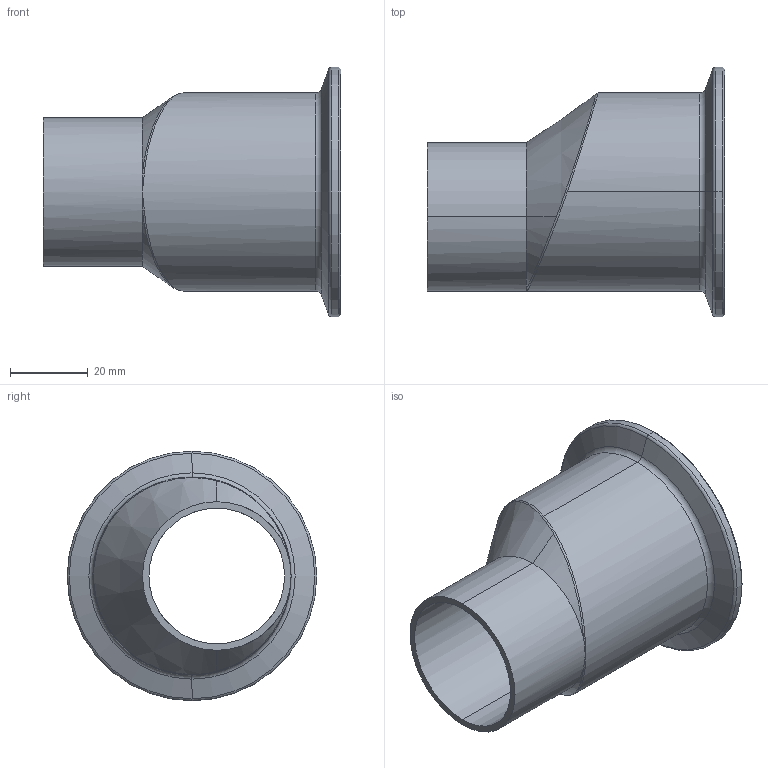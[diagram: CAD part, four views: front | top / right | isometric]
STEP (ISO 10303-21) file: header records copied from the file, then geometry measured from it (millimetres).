
FILE_DESCRIPTION (( 'STEP AP214' ), '1' );
FILE_NAME ('TE32SCW6L2.0x1.5-...STEP', '2016-06-01T09:53:40', ( 'eran' ), ( '' ), 'SwSTEP 2.0', 'SolidWorks 2016', '' );
FILE_SCHEMA (( 'AUTOMOTIVE_DESIGN' ));
Length unit declared in the file: millimetre
Products named in the file (1): TE32SCW6L2.0x1.5-..
Bounding box: 76.2 x 64 x 64 mm (x, y, z)
Volume: 43048.6 mm3; surface area: 23165.1 mm2
Topology: 1 solids, 1 shells, 47 faces, 104 edges, 56 vertices
Faces by surface type: cone 16, torus 13, cylinder 10, bspline 5, plane 3
Entity records: 2040 total; most frequent: CARTESIAN_POINT 1003, DIRECTION 228, ORIENTED_EDGE 200, AXIS2_PLACEMENT_3D 102, EDGE_CURVE 100, CIRCLE 59, VERTEX_POINT 56, EDGE_LOOP 50
